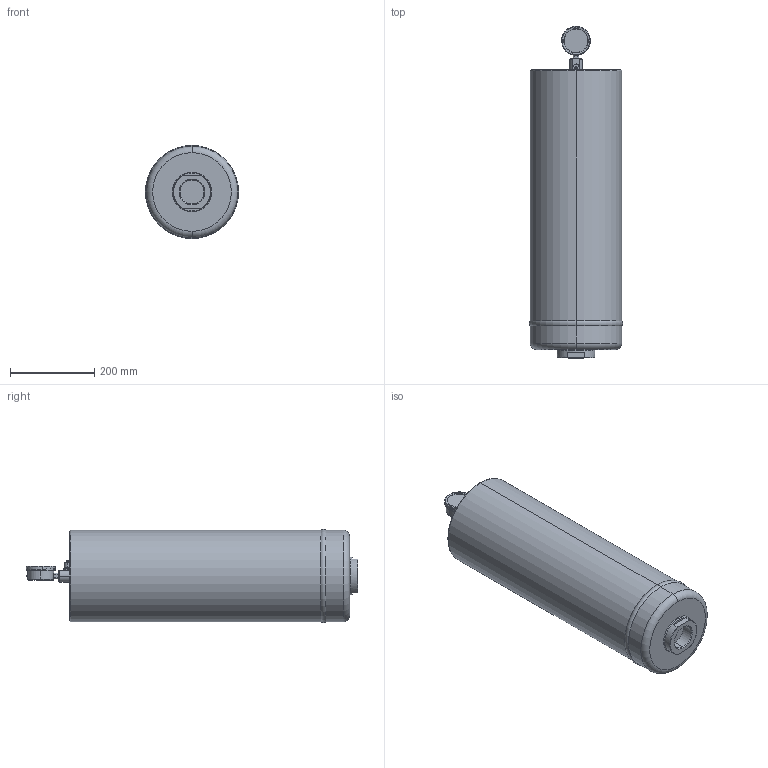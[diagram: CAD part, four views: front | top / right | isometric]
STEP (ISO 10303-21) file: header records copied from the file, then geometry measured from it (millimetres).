
FILE_DESCRIPTION (( 'STEP AP214' ), '1' );
FILE_NAME ('U150G10X1-AI (DGA).STEP', '2025-05-12T15:30:47', ( '' ), ( '' ), 'SwSTEP 2.0', 'SolidWorks 2024', '' );
FILE_SCHEMA (( 'AUTOMOTIVE_DESIGN' ));
Length unit declared in the file: millimetre
Products named in the file (1): U150G10X1-AI (DGA)
Bounding box: 221.3 x 788.4 x 221.3 mm (x, y, z)
Surface area: 602257.2 mm2 (no closed solid volume)
Topology: 0 solids, 16 shells, 445 faces, 1127 edges, 699 vertices
Faces by surface type: plane 142, cylinder 127, cone 65, torus 61, bspline 36, sphere 14
Entity records: 18898 total; most frequent: CARTESIAN_POINT 3307, DIRECTION 2321, ORIENTED_EDGE 2077, EDGE_CURVE 1113, AXIS2_PLACEMENT_3D 944, VERTEX_POINT 699, CIRCLE 534, EDGE_LOOP 507
